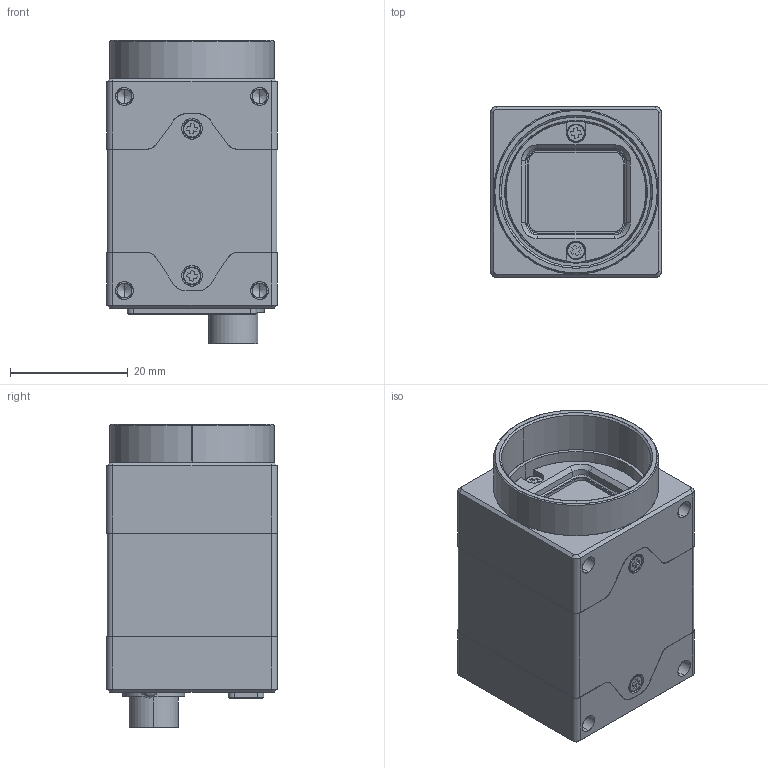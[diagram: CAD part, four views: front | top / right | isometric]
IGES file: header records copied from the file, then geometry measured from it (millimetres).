
Start section: SolidWorks IGES file using analytic representation for surfaces
Global section: file name: \\projectfs\project\engineering\MECH_CAD\mechanical\Documentation\BFS-XL\BFS-XL-USB\BFS-XL-02-R0.IGS; native system: SolidWorks 2017; preprocessor: SolidWorks 2017; author: hpan; date: 181224.123029; units: millimetre
Bounding box: 29 x 29 x 51.51 mm (x, y, z)
Surface area: 8709 mm2 (no closed solid volume)
Topology: 0 solids, 0 shells, 408 faces, 4406 edges, 4390 vertices
Faces by surface type: bspline 226, revolution 182
